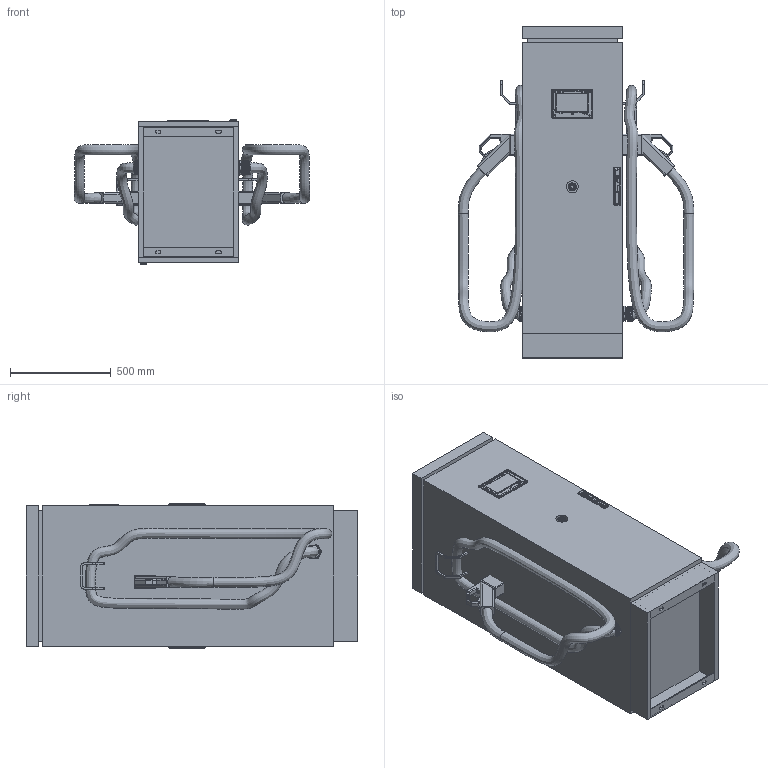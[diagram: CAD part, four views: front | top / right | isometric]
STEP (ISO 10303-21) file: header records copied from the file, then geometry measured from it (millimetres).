
FILE_DESCRIPTION(/* description */ (''),/* implementation_level */ '2;1');
FILE_NAME(/* name */ 'VEDACHARGE HCD.stp',/* time_stamp */ '2024-12-27T10:10:14+04:00',/* author */ ('Александр (огранич)'),/* organization */ (''),/* preprocessor_version */ 'ST-DEVELOPER v19.2',/* originating_system */ 'Autodesk Inventor 2024',/* authorisation */ '');
FILE_SCHEMA (('AUTOMOTIVE_DESIGN { 1 0 10303 214 3 1 1 }'));
Products named in the file (16): VEDACHARGE HCD; Корпус шкафа; VC-H-7(E); BBG10-AE-K04 Êíîïêà AE-22 Ãðèá
îê ñ ôèêñ.êðàñí.d22ì
ì 240Â 1ç+1ð ÈÝÊ; RAMBLOCK montata modificated_Default; inserto chiave per maniglia RAM BLOCK_AC00C389; Sealing ring; Ingranaggio per cariglione modificated_AC00C388; basetta esterna_AC00C506; maniglia RAM BLOCK modificated_AC00C505; Пистолет; YSA20-40-63-68-K02 Сальник 
MG 63; Провод; Пистолет_MIR; Сальник MG 63 диаметр 
проводника 35-45мм 
IP68 IEK_MIR; Провод_MIR
Assembly tree (16 placements, depth 3):
  VEDACHARGE HCD
    Корпус шкафа
    VC-H-7(E)
    BBG10-AE-K04 Êíîïêà AE-22 Ãðèá
îê ñ ôèêñ.êðàñí.d22ì
ì 240Â 1ç+1ð ÈÝÊ
    RAMBLOCK montata modificated_Default  x2
      inserto chiave per maniglia RAM BLOCK_AC00C389
      Sealing ring
      Ingranaggio per cariglione modificated_AC00C388
      basetta esterna_AC00C506
      maniglia RAM BLOCK modificated_AC00C505
    Пистолет
    YSA20-40-63-68-K02 Сальник 
MG 63
    Провод
    Пистолет_MIR
    Сальник MG 63 диаметр 
проводника 35-45мм 
IP68 IEK_MIR
    Провод_MIR
Bounding box: 1171.29 x 1650 x 718 mm (x, y, z)
Volume: 561163714.1 mm3; surface area: 8172455.9 mm2
Topology: 61 solids, 61 shells, 5822 faces, 15937 edges, 10522 vertices
Faces by surface type: plane 3617, cylinder 1695, bspline 258, torus 130, cone 116, sphere 6
Full cylindrical faces by diameter (mm): 0.67 x9, 1 x3, 2 x4, 2.5 x4, 3 x3, 3.2 x2, 3.4 x6, 4.2 x8, 5 x3, 5.5 x4, 5.8 x4, 8 x4, 8.2 x6, 10 x2, 12.8 x2, 13.8 x4, 14.1 x2, 15.9 x2, 16.2 x2, 18 x1, 21 x1, 25 x1, 25.5 x1, 28.5 x1, 29 x1, 30 x1, 38.5 x1, 40 x2, 44.8 x2, 45 x2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
Entity records: 256339 total; most frequent: CARTESIAN_POINT 115721, ORIENTED_EDGE 30054, DIRECTION 26207, EDGE_CURVE 15027, VERTEX_POINT 9924, LINE 9025, VECTOR 9025, AXIS2_PLACEMENT_3D 8591
